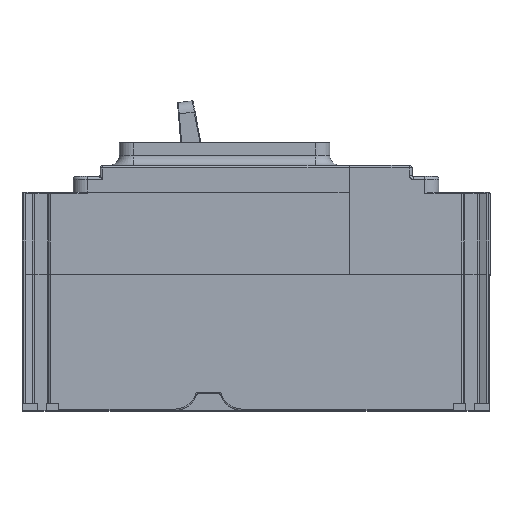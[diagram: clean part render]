
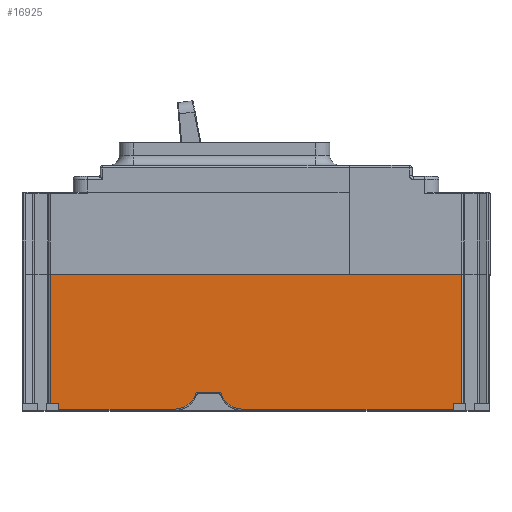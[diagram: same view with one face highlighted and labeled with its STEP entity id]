
A CAD part, top view. The second image highlights one B-rep face of the part: STEP entity #16925.
In plain terms, the highlighted planar face has unit normal (0, 0, 1).
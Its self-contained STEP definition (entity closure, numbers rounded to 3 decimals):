
#814=DIRECTION('',(-1.,0.,0.));
#815=VECTOR('',#814,145.);
#816=CARTESIAN_POINT('',(91.258,26.347,87.5));
#817=LINE('',#816,#815);
#5598=DIRECTION('',(0.,-1.,0.));
#5599=VECTOR('',#5598,45.5);
#5600=CARTESIAN_POINT('',(-53.742,26.347,87.5));
#5601=LINE('',#5600,#5599);
#5606=CARTESIAN_POINT('',(-9.742,-13.653,
87.5));
#5607=DIRECTION('',(0.,0.,-1.));
#5608=DIRECTION('',(0.956,-0.294,0.));
#5609=AXIS2_PLACEMENT_3D('',#5606,#5607,#5608);
#5611=DIRECTION('',(0.,1.,0.));
#5612=VECTOR('',#5611,2.);
#5613=CARTESIAN_POINT('',(-50.742,-21.153,87.5));
#5614=LINE('',#5613,#5612);
#5615=DIRECTION('',(-1.,0.,0.));
#5616=VECTOR('',#5615,3.);
#5617=CARTESIAN_POINT('',(-50.742,-19.153,87.5));
#5618=LINE('',#5617,#5616);
#5619=DIRECTION('',(-1.,0.,0.));
#5620=VECTOR('',#5619,3.);
#5621=CARTESIAN_POINT('',(91.258,-19.153,87.5));
#5622=LINE('',#5621,#5620);
#5623=DIRECTION('',(0.,-1.,0.));
#5624=VECTOR('',#5623,2.);
#5625=CARTESIAN_POINT('',(88.258,-19.153,87.5));
#5626=LINE('',#5625,#5624);
#5627=CARTESIAN_POINT('',(13.758,-13.653,87.5));
#5628=DIRECTION('',(0.,0.,-1.));
#5629=DIRECTION('',(0.,-1.,0.));
#5630=AXIS2_PLACEMENT_3D('',#5627,#5628,#5629);
#5632=CARTESIAN_POINT('',(5.634,-16.153,87.5));
#5633=DIRECTION('',(0.,0.,1.));
#5634=DIRECTION('',(0.956,0.294,0.));
#5635=AXIS2_PLACEMENT_3D('',#5632,#5633,#5634);
#5637=CARTESIAN_POINT('',(-1.618,-16.153,87.5));
#5638=DIRECTION('',(0.,0.,1.));
#5639=DIRECTION('',(0.,1.,0.));
#5640=AXIS2_PLACEMENT_3D('',#5637,#5638,#5639);
#5671=DIRECTION('',(1.,0.,0.));
#5672=VECTOR('',#5671,7.252);
#5673=CARTESIAN_POINT('',(-1.618,-15.153,87.5));
#5674=LINE('',#5673,#5672);
#5704=DIRECTION('',(1.,0.,0.));
#5705=VECTOR('',#5704,74.5);
#5706=CARTESIAN_POINT('',(13.758,-21.153,87.5));
#5707=LINE('',#5706,#5705);
#5893=DIRECTION('',(0.,1.,0.));
#5894=VECTOR('',#5893,45.5);
#5895=CARTESIAN_POINT('',(91.258,-19.153,87.5));
#5896=LINE('',#5895,#5894);
#6541=DIRECTION('',(1.,0.,0.));
#6542=VECTOR('',#6541,41.);
#6543=CARTESIAN_POINT('',(-50.742,-21.153,87.5));
#6544=LINE('',#6543,#6542);
#8779=CARTESIAN_POINT('',(91.258,26.347,87.5));
#8780=VERTEX_POINT('',#8779);
#8781=CARTESIAN_POINT('',(-53.742,26.347,87.5));
#8782=VERTEX_POINT('',#8781);
#8872=CARTESIAN_POINT('',(91.258,-19.153,87.5));
#8873=CARTESIAN_POINT('',(88.258,-19.153,87.5));
#8874=VERTEX_POINT('',#8872);
#8875=VERTEX_POINT('',#8873);
#8900=CARTESIAN_POINT('',(-2.573,-15.859,
87.5));
#8901=CARTESIAN_POINT('',(-9.742,-21.153,
87.5));
#8902=VERTEX_POINT('',#8900);
#8903=VERTEX_POINT('',#8901);
#8904=CARTESIAN_POINT('',(-50.742,-21.153,87.5));
#8905=VERTEX_POINT('',#8904);
#8906=CARTESIAN_POINT('',(-50.742,-19.153,87.5));
#8907=VERTEX_POINT('',#8906);
#8908=CARTESIAN_POINT('',(-53.742,-19.153,87.5));
#8909=VERTEX_POINT('',#8908);
#8910=CARTESIAN_POINT('',(88.258,-21.153,87.5));
#8911=VERTEX_POINT('',#8910);
#8912=CARTESIAN_POINT('',(13.758,-21.153,87.5));
#8913=VERTEX_POINT('',#8912);
#8914=CARTESIAN_POINT('',(6.59,-15.859,87.5));
#8915=VERTEX_POINT('',#8914);
#8916=CARTESIAN_POINT('',(5.634,-15.153,87.5));
#8917=VERTEX_POINT('',#8916);
#8918=CARTESIAN_POINT('',(-1.618,-15.153,87.5));
#8919=VERTEX_POINT('',#8918);
#16894=CARTESIAN_POINT('',(109.508,-24.053,87.5));
#16895=DIRECTION('',(0.,0.,-1.));
#16896=DIRECTION('',(-1.,0.,0.));
#16897=AXIS2_PLACEMENT_3D('',#16894,#16895,#16896);
#16898=PLANE('',#16897);
#16900=ORIENTED_EDGE('',*,*,#16899,.T.);
#16902=ORIENTED_EDGE('',*,*,#16901,.F.);
#16903=ORIENTED_EDGE('',*,*,#16693,.T.);
#16904=ORIENTED_EDGE('',*,*,#16717,.T.);
#16905=ORIENTED_EDGE('',*,*,#16886,.F.);
#16906=ORIENTED_EDGE('',*,*,#10653,.F.);
#16908=ORIENTED_EDGE('',*,*,#16907,.F.);
#16910=ORIENTED_EDGE('',*,*,#16909,.T.);
#16912=ORIENTED_EDGE('',*,*,#16911,.T.);
#16914=ORIENTED_EDGE('',*,*,#16913,.F.);
#16916=ORIENTED_EDGE('',*,*,#16915,.T.);
#16918=ORIENTED_EDGE('',*,*,#16917,.T.);
#16920=ORIENTED_EDGE('',*,*,#16919,.F.);
#16922=ORIENTED_EDGE('',*,*,#16921,.T.);
#16923=EDGE_LOOP('',(#16900,#16902,#16903,#16904,#16905,#16906,#16908,#16910,
#16912,#16914,#16916,#16918,#16920,#16922));
#16924=FACE_OUTER_BOUND('',#16923,.F.);
#16925=ADVANCED_FACE('',(#16924),#16898,.F.);
#5610=CIRCLE('',#5609,7.5);
#5631=CIRCLE('',#5630,7.5);
#5636=CIRCLE('',#5635,1.);
#5641=CIRCLE('',#5640,1.);
#10653=EDGE_CURVE('',#8780,#8782,#817,.T.);
#16693=EDGE_CURVE('',#8905,#8907,#5614,.T.);
#16717=EDGE_CURVE('',#8907,#8909,#5618,.T.);
#16886=EDGE_CURVE('',#8782,#8909,#5601,.T.);
#16899=EDGE_CURVE('',#8902,#8903,#5610,.T.);
#16901=EDGE_CURVE('',#8905,#8903,#6544,.T.);
#16907=EDGE_CURVE('',#8874,#8780,#5896,.T.);
#16909=EDGE_CURVE('',#8874,#8875,#5622,.T.);
#16911=EDGE_CURVE('',#8875,#8911,#5626,.T.);
#16913=EDGE_CURVE('',#8913,#8911,#5707,.T.);
#16915=EDGE_CURVE('',#8913,#8915,#5631,.T.);
#16917=EDGE_CURVE('',#8915,#8917,#5636,.T.);
#16919=EDGE_CURVE('',#8919,#8917,#5674,.T.);
#16921=EDGE_CURVE('',#8919,#8902,#5641,.T.);
